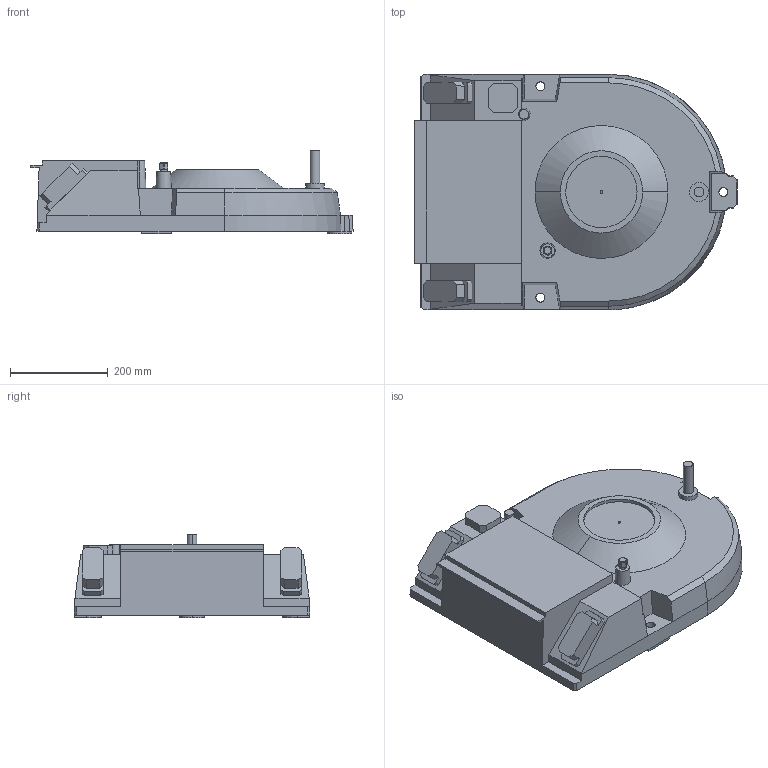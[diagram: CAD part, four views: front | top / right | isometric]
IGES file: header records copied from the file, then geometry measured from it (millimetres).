
Start section: SolidWorks IGES file using analytic representation for surfaces
Global section: file name: C:\Holley\Robot\IRB1600\CAD model\IRB1600_X-145_SW_IRC5_rev02\IRB1600_X-145_SW\IRB1600_X-145_IRC5_rev1_BASE.IGS; native system: SolidWorks 2020; preprocessor: SolidWorks 2020; author: CNHOCHE3; date: 211129.143456; units: millimetre
Bounding box: 660.26 x 483.27 x 171 mm (x, y, z)
Volume: 28873944 mm3; surface area: 853666.9 mm2
Topology: 3 solids, 3 shells, 160 faces, 418 edges, 274 vertices
Faces by surface type: plane 119, bspline 27, revolution 14
